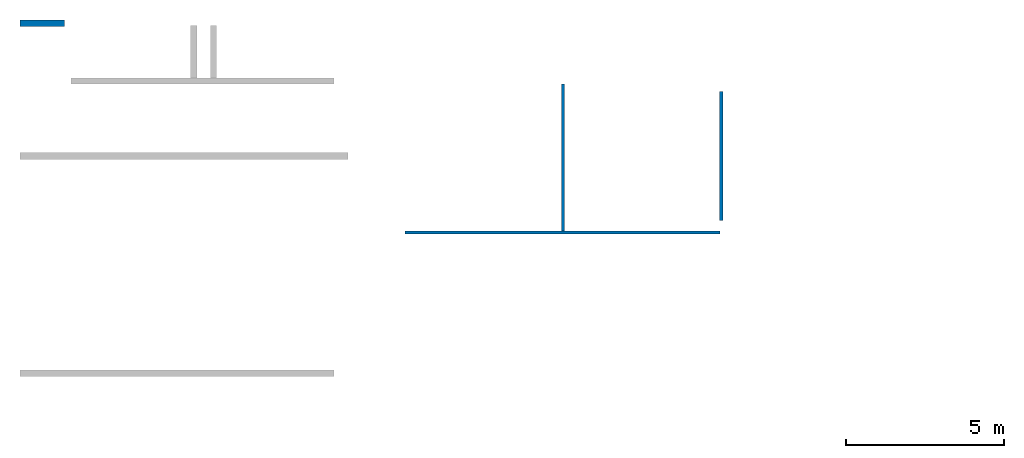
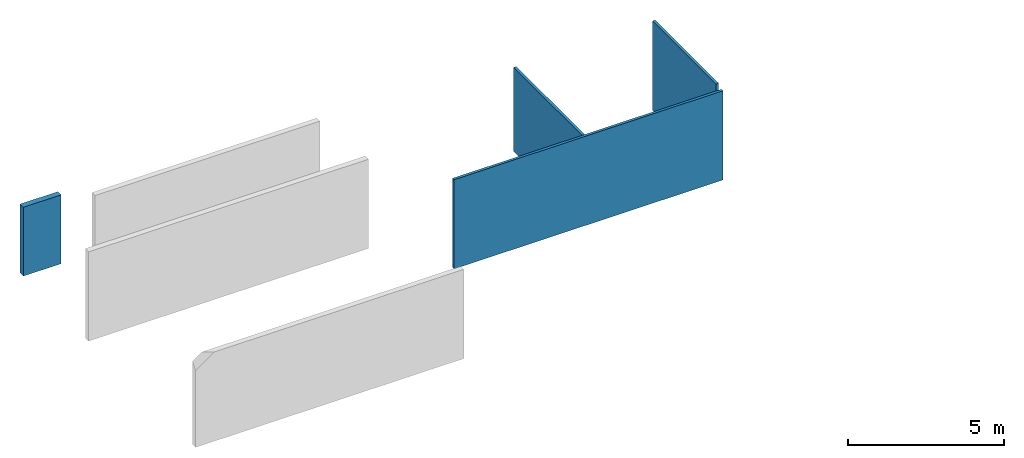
# One storey, part 2 of 2: 4 walls.
"""IFC2X3 building model written with IfcOpenShell, lengths in millimetres."""

from ifc_helpers import new_model, entity, si_unit, converted_unit, derived_unit, direction, frame, frame_2d, origin, place, context, subcontext, project, spatial, polyline, rectangle, extrude, clip, bounded_halfspace, material, layer, layer_set, layer_usage, type_object, element, save


model = new_model("IFC2X3")

# Units and contexts
model_context = context("Model", 3, precision=0.01, world=origin(), true_north=direction((6.12303176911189e-17, 1.0)))
body_context = subcontext(model_context, "Body", "Model", "MODEL_VIEW")
ifc_project = project(units=[si_unit("LENGTHUNIT", "METRE", prefix="MILLI"), si_unit("AREAUNIT", "SQUARE_METRE"), si_unit("VOLUMEUNIT", "CUBIC_METRE"), converted_unit("PLANEANGLEUNIT", "DEGREE", entity("IfcRatioMeasure", 0.0174532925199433), si_unit("PLANEANGLEUNIT", "RADIAN"), dimensions=[0, 0, 0, 0, 0, 0, 0]), si_unit("MASSUNIT", "GRAM", prefix="KILO"), derived_unit("MASSDENSITYUNIT", [(si_unit("MASSUNIT", "GRAM", prefix="KILO"), 1), (si_unit("LENGTHUNIT", "METRE"), -3)]), derived_unit("MOMENTOFINERTIAUNIT", [(si_unit("LENGTHUNIT", "METRE"), 4)]), si_unit("TIMEUNIT", "SECOND"), si_unit("FREQUENCYUNIT", "HERTZ"), si_unit("THERMODYNAMICTEMPERATUREUNIT", "DEGREE_CELSIUS"), derived_unit("THERMALTRANSMITTANCEUNIT", [(si_unit("MASSUNIT", "GRAM", prefix="KILO"), 1), (si_unit("THERMODYNAMICTEMPERATUREUNIT", "KELVIN"), -1), (si_unit("TIMEUNIT", "SECOND"), -3)]), derived_unit("VOLUMETRICFLOWRATEUNIT", [(si_unit("LENGTHUNIT", "METRE"), 3), (si_unit("TIMEUNIT", "SECOND"), -1)]), si_unit("ELECTRICCURRENTUNIT", "AMPERE"), si_unit("ELECTRICVOLTAGEUNIT", "VOLT"), si_unit("POWERUNIT", "WATT"), si_unit("FORCEUNIT", "NEWTON", prefix="KILO"), si_unit("ILLUMINANCEUNIT", "LUX"), si_unit("LUMINOUSFLUXUNIT", "LUMEN"), si_unit("LUMINOUSINTENSITYUNIT", "CANDELA"), derived_unit("USERDEFINED", [(si_unit("MASSUNIT", "GRAM", prefix="KILO"), -1), (si_unit("LENGTHUNIT", "METRE"), -2), (si_unit("TIMEUNIT", "SECOND"), 3), (si_unit("LUMINOUSFLUXUNIT", "LUMEN"), 1)]), derived_unit("LINEARVELOCITYUNIT", [(si_unit("LENGTHUNIT", "METRE"), 1), (si_unit("TIMEUNIT", "SECOND"), -1)]), si_unit("PRESSUREUNIT", "PASCAL"), derived_unit("USERDEFINED", [(si_unit("LENGTHUNIT", "METRE"), -2), (si_unit("MASSUNIT", "GRAM", prefix="KILO"), 1), (si_unit("TIMEUNIT", "SECOND"), -2)]), derived_unit("LINEARFORCEUNIT", [(si_unit("MASSUNIT", "GRAM", prefix="KILO"), 1), (si_unit("LENGTHUNIT", "METRE"), 1), (si_unit("TIMEUNIT", "SECOND"), -2), (si_unit("LENGTHUNIT", "METRE"), -1)]), derived_unit("PLANARFORCEUNIT", [(si_unit("MASSUNIT", "GRAM", prefix="KILO"), 1), (si_unit("LENGTHUNIT", "METRE"), 1), (si_unit("TIMEUNIT", "SECOND"), -2), (si_unit("LENGTHUNIT", "METRE"), -2)])], contexts=[model_context])

# Site, building, storey
site_placement = place(None, frame((10627.5135316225, 21939.0796949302, 0.0)))
site = spatial("IfcSite", under=ifc_project, at=site_placement, Name="Default", CompositionType="ELEMENT")
building_placement = place(site_placement, origin())
building = spatial("IfcBuilding", under=site, at=building_placement, CompositionType="ELEMENT")
storey_placement = place(building_placement, frame((0.0, 0.0, -3500.0)))
storey = spatial("IfcBuildingStorey", under=building, at=storey_placement, Name="R-1", CompositionType="ELEMENT", Elevation=-3500.0)

# Walls
ifc_material_1 = material(Name="Paint - White Lining")
ifc_layer_1 = layer(ifc_material_1, 3.0)
ifc_material_2 = material(Name="Concrete Masonry Units")
ifc_layer_2 = layer(ifc_material_2, 94.0)
ifc_layer_3 = layer(ifc_material_1, 3.0)
ifc_layer_set_1 = layer_set([ifc_layer_1, ifc_layer_2, ifc_layer_3], Name="Basic Wall:Wall-Int 100")
ifc_layer_usage_1 = layer_usage(ifc_layer_set_1, "AXIS2", "NEGATIVE", 50.0)
wall_type_1 = type_object("IfcWallType", Name="Basic Wall:Wall-Int 100", PredefinedType="STANDARD", material=ifc_layer_set_1)
wall_1_placement = place(storey_placement, frame((11749.4864683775, 11792.9203050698, 0.0), z_axis=(0.0, 0.0, 1.0), x_axis=(-1.0, 0.0, 0.0)))
element("IfcWallStandardCase", 1, at=wall_1_placement, inside=storey, type_object=wall_type_1, material=ifc_layer_usage_1, Name="Basic Wall:Wall-Int 100", ObjectType="Basic Wall:Wall-Int 100", context=body_context, shape_type="SweptSolid", body=[
    extrude(rectangle(XDim=9967.0, YDim=99.9999999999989, at=frame_2d((4983.5, 0.0), x_axis=(-1.0, 0.0))), origin(), (0.0, 0.0, 1.0), 3500.0),
])
ifc_layer_usage_2 = layer_usage(ifc_layer_set_1, "AXIS2", "POSITIVE", -50.0)
wall_2_placement = place(storey_placement, frame((6782.48646837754, 11842.9203050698, 0.0), z_axis=(0.0, 0.0, 1.0), x_axis=(0.0, 1.0, 0.0)))
element("IfcWallStandardCase", 2, at=wall_2_placement, inside=storey, type_object=wall_type_1, material=ifc_layer_usage_2, Name="Basic Wall:Wall-Int 100", ObjectType="Basic Wall:Wall-Int 100", context=body_context, shape_type="Clipping", body=[
    clip(extrude(rectangle(XDim=4657.99999999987, YDim=100.000000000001, at=frame_2d((2328.99999999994, -2.1316282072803e-14), x_axis=(-1.0, 0.0))), origin(), (0.0, 0.0, 1.0), 3289.0), bounded_halfspace(frame((2593.0, -50.0, 3289.0), z_axis=(0.0, 0.0, -1.0), x_axis=(1.0, 0.0, 0.0)), True, frame((2593.0, -50.0, 3289.0)), polyline([(0.0, 0.0), (2065.0, 0.0), (2065.0, 100.0), (0.0, 100.0), (0.0, 0.0)]))),
])
ifc_layer_usage_3 = layer_usage(ifc_layer_set_1, "AXIS2", "NEGATIVE", 50.0)
wall_3_placement = place(storey_placement, frame((11796.4864683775, 12175.9203050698, 0.0), z_axis=(0.0, 0.0, 1.0), x_axis=(0.0, 1.0, 0.0)))
element("IfcWallStandardCase", 3, at=wall_3_placement, inside=storey, type_object=wall_type_1, material=ifc_layer_usage_3, Name="Basic Wall:Wall-Int 100", ObjectType="Basic Wall:Wall-Int 100", context=body_context, shape_type="SweptSolid", body=[
    extrude(rectangle(XDim=4090.0, YDim=99.9999999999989, at=frame_2d((2045.0, 0.0), x_axis=(-1.0, 0.0))), origin(), (0.0, 0.0, 1.0), 3500.0),
])
ifc_material_3 = material(Name="Concrete - Cast-in-Place Concrete")
ifc_layer_4 = layer(ifc_material_3, 210.0)
ifc_layer_set_2 = layer_set([ifc_layer_4], Name="Basic Wall:Mur S/SOL 21")
ifc_layer_usage_4 = layer_usage(ifc_layer_set_2, "AXIS2", "NEGATIVE", 105.0)
wall_type_2 = type_object("IfcWallType", Name="Basic Wall:Mur S/SOL 21", PredefinedType="STANDARD", material=ifc_layer_set_2)
wall_4_placement = place(storey_placement, frame((-10412.5135316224, 18420.9203050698, 0.0)))
element("IfcWallStandardCase", 4, at=wall_4_placement, inside=storey, type_object=wall_type_2, material=ifc_layer_usage_4, Name="Basic Wall:Mur S/SOL 21", ObjectType="Basic Wall:Mur S/SOL 21", context=body_context, shape_type="SweptSolid", body=[
    extrude(rectangle(XDim=1402.00000000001, YDim=210.0, at=frame_2d((701.000000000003, 0.0), x_axis=(-1.0, 0.0))), origin(), (0.0, 0.0, 1.0), 2700.0),
])

save(model, "model.ifc")
